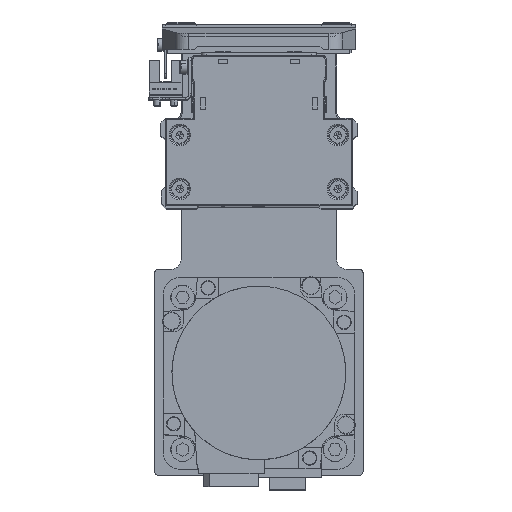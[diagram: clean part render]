
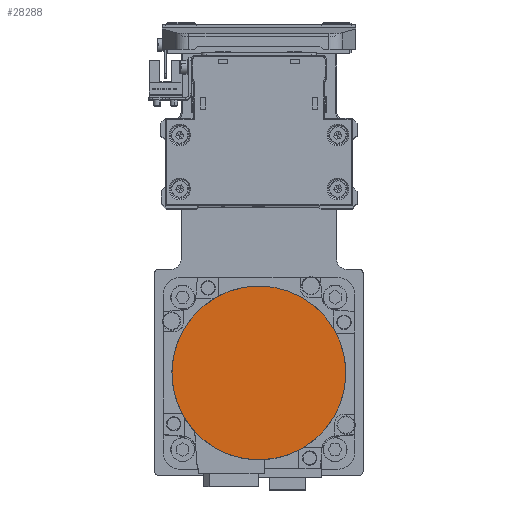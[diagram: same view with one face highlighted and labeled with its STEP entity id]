
A CAD part, top view. The second image highlights one B-rep face of the part: STEP entity #28288.
In plain terms, the highlighted planar face has unit normal (0, 0, 1) as drawn and (0, 0, -1) by its records, which use the part's own axes.
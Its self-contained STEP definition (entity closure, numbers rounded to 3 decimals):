
#729 = AXIS2_PLACEMENT_3D ( 'NONE', #25637, #37642, #10658 ) ;
#4573 = CARTESIAN_POINT ( 'NONE',  ( 0., 0., -122.2 ) ) ;
#5465 = ORIENTED_EDGE ( 'NONE', *, *, #34070, .F. ) ;
#10658 = DIRECTION ( 'NONE',  ( 0., 1., 0. ) ) ;
#10876 = EDGE_CURVE ( 'NONE', #22415, #38550, #13980, .T. ) ;
#11822 = DIRECTION ( 'NONE',  ( 0., -1., 0. ) ) ;
#13233 = CARTESIAN_POINT ( 'NONE',  ( 0., 36.3, -122.2 ) ) ;
#13980 = CIRCLE ( 'NONE', #36009, 36.3 ) ;
#16579 = DIRECTION ( 'NONE',  ( 0., 0., 1. ) ) ;
#17702 = CIRCLE ( 'NONE', #729, 36.3 ) ;
#17802 = AXIS2_PLACEMENT_3D ( 'NONE', #4573, #16579, #28600 ) ;
#19536 = FACE_OUTER_BOUND ( 'NONE', #22341, .T. ) ;
#19632 = ORIENTED_EDGE ( 'NONE', *, *, #10876, .F. ) ;
#19826 = CARTESIAN_POINT ( 'NONE',  ( 0., -36.3, -122.2 ) ) ;
#22341 = EDGE_LOOP ( 'NONE', ( #5465, #19632 ) ) ;
#22415 = VERTEX_POINT ( 'NONE', #19826 ) ;
#25637 = CARTESIAN_POINT ( 'NONE',  ( 0., 0., -122.2 ) ) ;
#26794 = CARTESIAN_POINT ( 'NONE',  ( 0., 0., -122.2 ) ) ;
#28288 = ADVANCED_FACE ( 'NONE', ( #19536 ), #31552, .F. ) ;
#28600 = DIRECTION ( 'NONE',  ( 1., 0., 0. ) ) ;
#31552 = PLANE ( 'NONE',  #17802 ) ;
#34070 = EDGE_CURVE ( 'NONE', #38550, #22415, #17702, .T. ) ;
#36009 = AXIS2_PLACEMENT_3D ( 'NONE', #26794, #38801, #11822 ) ;
#37642 = DIRECTION ( 'NONE',  ( 0., 0., 1. ) ) ;
#38550 = VERTEX_POINT ( 'NONE', #13233 ) ;
#38801 = DIRECTION ( 'NONE',  ( 0., 0., 1. ) ) ;
